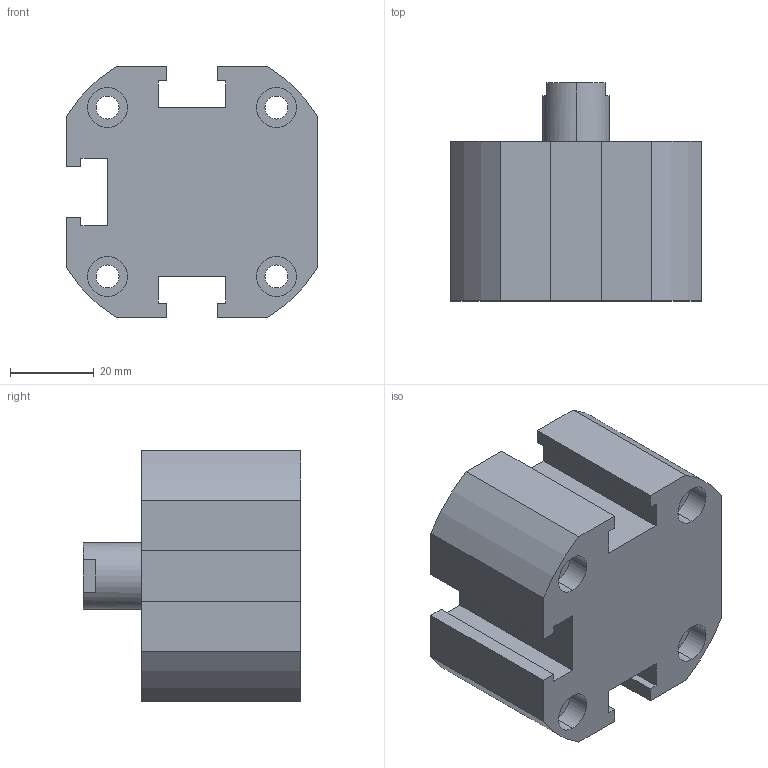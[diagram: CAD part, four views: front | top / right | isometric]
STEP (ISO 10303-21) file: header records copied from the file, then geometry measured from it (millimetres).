
FILE_DESCRIPTION (( 'STEP AP203' ), '1' );
FILE_NAME ('XC#0-40-10.STEP', '2016-05-23T07:00:39', ( '' ), ( '' ), 'SwSTEP 2.0', 'SolidWorks 2014', '' );
FILE_SCHEMA (( 'CONFIG_CONTROL_DESIGN' ));
Length unit declared in the file: millimetre
Products named in the file (1): XC#0-40-10
Bounding box: 60 x 52 x 60 mm (x, y, z)
Volume: 106596.9 mm3; surface area: 21732.7 mm2
Topology: 1 solids, 1 shells, 107 faces, 267 edges, 174 vertices
Faces by surface type: cylinder 52, plane 49, cone 6
Entity records: 3290 total; most frequent: DIRECTION 591, CARTESIAN_POINT 545, ORIENTED_EDGE 526, EDGE_CURVE 263, AXIS2_PLACEMENT_3D 220, VERTEX_POINT 174, LINE 151, VECTOR 151
